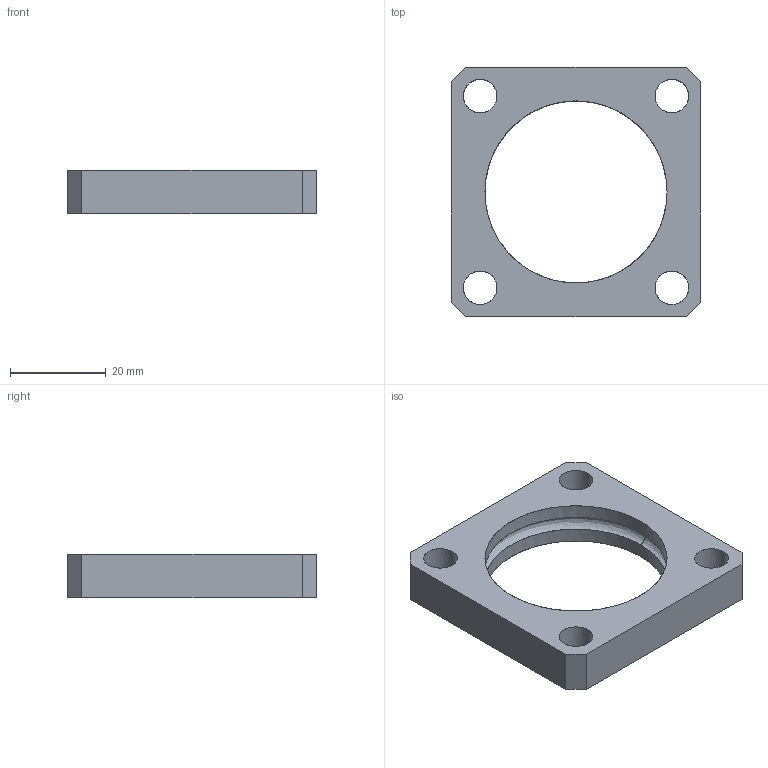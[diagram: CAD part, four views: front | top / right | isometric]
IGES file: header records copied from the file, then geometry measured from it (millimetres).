
Start section: VISI Layer Mapping Iges    VISI  0      LAYER_EMPTY  1      wwww  7      W_PD700  8      S_PD700  10     W_PD1000  11     S_PD1000  13     W_PD2000  14     S_PD2000  16     W_PD3000  17     S_PD3000  19     W_PD4000  20     S_PD4000  22     W_PD7000  23     S_PD7000  28     W_350  29     MS-350  30     MC-350  31     MP-350  32     MB-350  33     MH-350  34     MK-350  35     MPL-350  39     W_500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
Global section: file name: L:\cam_backup\钎霖前_沥府\颇况咆\mount_______\500\MP-500.igs; native system: VISI 16.0; preprocessor: 2.0; author: 11; organization: 0; date: 500.; units: mil
Bounding box: 52 x 52 x 9 mm (x, y, z)
Surface area: 6707.9 mm2 (no closed solid volume)
Topology: 0 solids, 0 shells, 17 faces, 273 edges, 264 vertices
Faces by surface type: bspline 17
